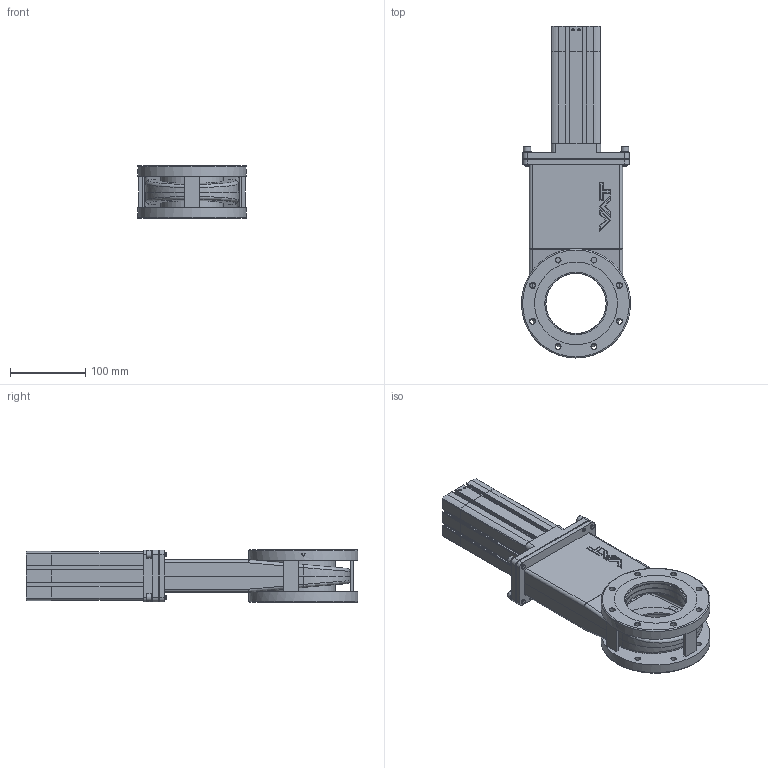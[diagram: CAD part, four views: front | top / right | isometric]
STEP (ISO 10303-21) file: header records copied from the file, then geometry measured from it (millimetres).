
FILE_DESCRIPTION(/* description */ (''),/* implementation_level */ '2;1');
FILE_NAME(/* name */ '1072974183_203.stp',/* time_stamp */ '2019-11-28T13:55:11+01:00',/* author */ (''),/* organization */ (''),/* preprocessor_version */ 'ST-DEVELOPER v16',/* originating_system */ 'SIEMENS PLM Software NX 11.0',/* authorisation */ '');
FILE_SCHEMA (('AP203_CONFIGURATION_CONTROLLED_3D_DESIGN_OF_MECHANICAL_PARTS_AND_ASSEMBLIES_MIM_LF { 1 0 10303 403 2 1 2}'));
Length unit declared in the file: millimetre
Products named in the file (16): 351945.10_28409ID; 351945.10_28408ID; 350769.3_28411ID; 589958; 351301.5_30019ID; 351301.5_30023ID; 251262.4; 351298.6_30153ID; 351298.6_30017ID; 708169; 708168; 493762; 527369_MODELNX-ARRAGMNTR09X Massbild Stange unterdrueckt, keine Innen
teile; 351296.12_MODELNX-ARRAGMNTunbearbeitet Original; 351302.14_MODEL; 709604
Assembly tree (23 placements, depth 4):
  709604
    351302.14_MODEL
      351298.6_30017ID
      351298.6_30153ID
      251262.4  x3
      351296.12_MODELNX-ARRAGMNTunbearbeitet Original
        350769.3_28411ID
        351945.10_28408ID
        351945.10_28409ID
      351301.5_30023ID
      351301.5_30019ID
    493762
    527369_MODELNX-ARRAGMNTR09X Massbild Stange unterdrueckt, keine Innen
teile
      589958
    708168  x4
    708169  x4
Bounding box: 145 x 441.6 x 70 mm (x, y, z)
Volume: 1056156.1 mm3; surface area: 532442.6 mm2
Topology: 47 solids, 49 shells, 1461 faces, 4019 edges, 2747 vertices
Faces by surface type: plane 823, cylinder 413, cone 88, extrusion 86, sphere 26, torus 13, bspline 12
Full cylindrical faces by diameter (mm): 1 x4, 1.2 x2, 2.3 x2, 2.5 x7, 3.8 x3, 4 x1, 4.2 x2, 5 x8, 5.2 x2, 5.22 x4, 5.774 x1, 6 x8, 6.4 x4, 6.5 x8, 6.8 x3, 7 x1, 7.2 x16, 8 x2, 8.1 x1, 8.566 x1, 10 x9, 10.4 x1, 10.5 x2, 10.6 x2, 11 x6, 11.6 x4, 13.7 x1, 14 x2, 15 x1, 15.5 x2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
Entity records: 49962 total; most frequent: CARTESIAN_POINT 14484, ORIENTED_EDGE 7006, DIRECTION 6109, EDGE_CURVE 3503, VERTEX_POINT 2538, AXIS2_PLACEMENT_3D 2273, EDGE_LOOP 1857, VECTOR 1563
